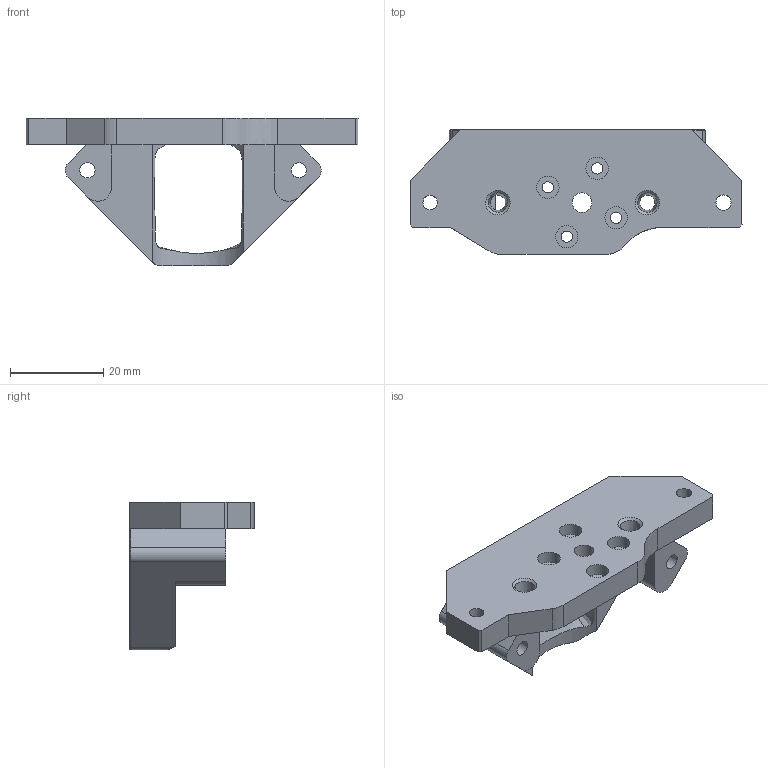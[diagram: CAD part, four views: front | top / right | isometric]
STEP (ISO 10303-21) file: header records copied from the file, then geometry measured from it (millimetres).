
FILE_DESCRIPTION(/* description */ (''),/* implementation_level */ '2;1');
FILE_NAME(/* name */ 'C:/Users/Martin/Documents/icarus-2.1/icarus-2-current-step-files/2-mounts/mount-sherpa-micro-r1-dragonfly-bmo-2.1.step',/* time_stamp */ '2022-08-22T21:37:01+02:00',/* author */ (''),/* organization */ (''),/* preprocessor_version */ 'ST-DEVELOPER v19',/* originating_system */ 'Autodesk Translation Framework v11.7.0.108',/* authorisation */ '');
FILE_SCHEMA (('AUTOMOTIVE_DESIGN { 1 0 10303 214 3 1 1 }'));
Length unit declared in the file: millimetre
Products named in the file (1): icarus-2-hotend-extruder-mounts
Bounding box: 71.07 x 26.66 x 31.68 mm (x, y, z)
Volume: 13611.5 mm3; surface area: 7533.6 mm2
Topology: 1 solids, 1 shells, 85 faces, 236 edges, 155 vertices
Faces by surface type: plane 36, cylinder 23, bspline 18, cone 8
Full cylindrical faces by diameter (mm): 2.4 x4, 3.1 x1, 3.25 x4, 4.2 x1, 4.8 x4
Entity records: 3553 total; most frequent: CARTESIAN_POINT 1388, ORIENTED_EDGE 472, DIRECTION 377, EDGE_CURVE 236, VERTEX_POINT 155, AXIS2_PLACEMENT_3D 127, LINE 123, VECTOR 123
